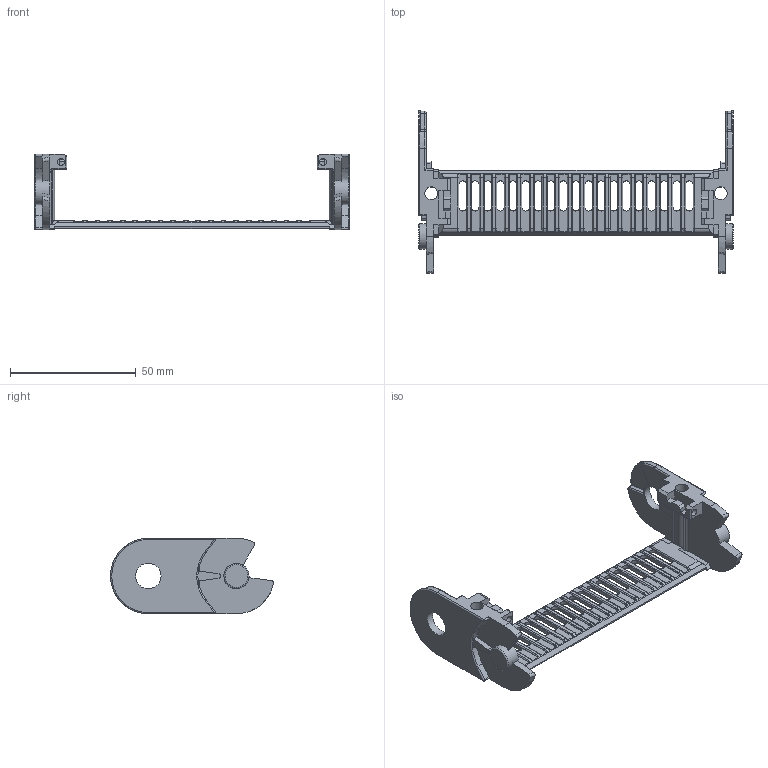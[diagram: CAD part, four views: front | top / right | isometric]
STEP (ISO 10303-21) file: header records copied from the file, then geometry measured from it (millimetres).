
FILE_DESCRIPTION((''),'2;1');
FILE_NAME('C:\Uebbing\PARAMETERKETTEN\KOLIBRI\Kol_30_125_0\Kol 30_125_0 Lasche.stp','2011-11-02T12:36:31',('Uebbing'),(''),'Autodesk Inventor 10','Autodesk Inventor 10','');
FILE_SCHEMA(('AUTOMOTIVE_DESIGN { 1 0 10303 214 1 1 1 1 }'));
Length unit declared in the file: millimetre
Products named in the file (1): Kol 30_125_0 Lasche
Bounding box: 125 x 64.71 x 30 mm (x, y, z)
Volume: 16819.4 mm3; surface area: 16202.2 mm2
Topology: 1 solids, 1 shells, 1005 faces, 2736 edges, 1744 vertices
Faces by surface type: plane 473, cylinder 251, torus 126, bspline 117, cone 32, sphere 6
Full cylindrical faces by diameter (mm): 1.166 x1, 2.048 x1, 2.8 x4, 5.1 x2, 10 x2, 10.1 x2
Entity records: 35038 total; most frequent: CARTESIAN_POINT 10000, ORIENTED_EDGE 5420, DIRECTION 5016, EDGE_CURVE 2710, AXIS2_PLACEMENT_3D 1749, VERTEX_POINT 1738, VECTOR 1518, LINE 1518
